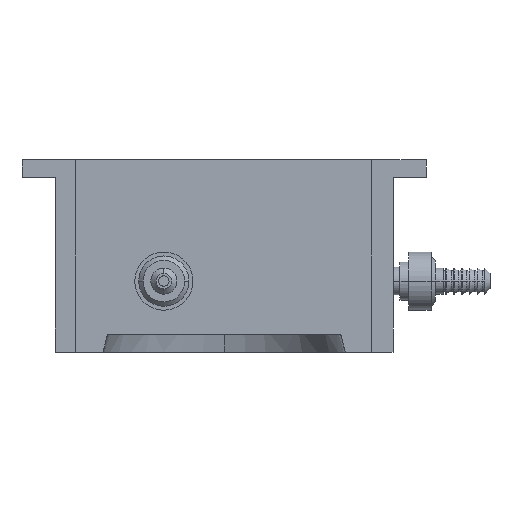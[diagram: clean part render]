
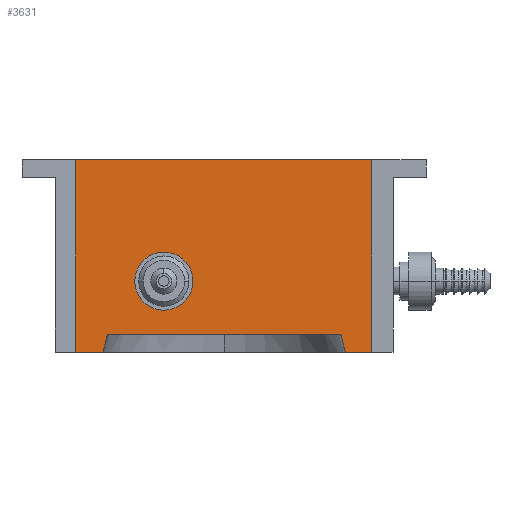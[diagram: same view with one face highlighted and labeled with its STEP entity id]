
A CAD part, left-side view. The second image highlights one B-rep face of the part: STEP entity #3631.
In plain terms, the highlighted planar face has unit normal (-1, 0, 0).
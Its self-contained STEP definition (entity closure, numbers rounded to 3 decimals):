
#15 = DIRECTION ( 'NONE',  ( 0., 0.259, 0.966 ) ) ;
#16 = CARTESIAN_POINT ( 'NONE',  ( -110., -40.341, 0.809 ) ) ;
#27 = DIRECTION ( 'NONE',  ( 0., -1., 0. ) ) ;
#85 = CARTESIAN_POINT ( 'NONE',  ( -110., 0., -101. ) ) ;
#89 = DIRECTION ( 'NONE',  ( 0., -1., 0. ) ) ;
#94 = PLANE ( 'NONE',  #1360 ) ;
#158 = CARTESIAN_POINT ( 'NONE',  ( -110., 0., -111. ) ) ;
#163 = CARTESIAN_POINT ( 'NONE',  ( -110., 0., -10. ) ) ;
#170 = DIRECTION ( 'NONE',  ( 0., -1., 0. ) ) ;
#173 = DIRECTION ( 'NONE',  ( -1., 0., 0. ) ) ;
#290 = VERTEX_POINT ( 'NONE', #3264 ) ;
#336 = VERTEX_POINT ( 'NONE', #3267 ) ;
#349 = VERTEX_POINT ( 'NONE', #3118 ) ;
#351 = VERTEX_POINT ( 'NONE', #2989 ) ;
#353 = VERTEX_POINT ( 'NONE', #2990 ) ;
#393 = VERTEX_POINT ( 'NONE', #3127 ) ;
#394 = VERTEX_POINT ( 'NONE', #3129 ) ;
#395 = VERTEX_POINT ( 'NONE', #3126 ) ;
#429 = LINE ( 'NONE', #3076, #493 ) ;
#448 = VECTOR ( 'NONE', #3440, 1000. ) ;
#453 = CIRCLE ( 'NONE', #3837, 8. ) ;
#493 = VECTOR ( 'NONE', #3176, 1000. ) ;
#497 = LINE ( 'NONE', #3399, #448 ) ;
#579 = LINE ( 'NONE', #16, #623 ) ;
#617 = VECTOR ( 'NONE', #89, 1000. ) ;
#619 = LINE ( 'NONE', #85, #958 ) ;
#622 = LINE ( 'NONE', #4010, #762 ) ;
#623 = VECTOR ( 'NONE', #15, 1000. ) ;
#750 = FACE_BOUND ( 'NONE', #2166, .T. ) ;
#762 = VECTOR ( 'NONE', #4004, 1000. ) ;
#783 = FACE_OUTER_BOUND ( 'NONE', #2163, .T. ) ;
#958 = VECTOR ( 'NONE', #27, 1000. ) ;
#1033 = VERTEX_POINT ( 'NONE', #3332 ) ;
#1198 = VERTEX_POINT ( 'NONE', #3340 ) ;
#1200 = LINE ( 'NONE', #158, #617 ) ;
#1206 = LINE ( 'NONE', #1388, #1209 ) ;
#1209 = VECTOR ( 'NONE', #1393, 1000. ) ;
#1311 = CIRCLE ( 'NONE', #1844, 8. ) ;
#1360 = AXIS2_PLACEMENT_3D ( 'NONE', #163, #173, #170 ) ;
#1388 = CARTESIAN_POINT ( 'NONE',  ( -110., 85.5, -10. ) ) ;
#1393 = DIRECTION ( 'NONE',  ( 0., 0., 1. ) ) ;
#1645 = DIRECTION ( 'NONE',  ( 0., 1., 0. ) ) ;
#1646 = DIRECTION ( 'NONE',  ( 1., 0., 0. ) ) ;
#1647 = CARTESIAN_POINT ( 'NONE',  ( -110., 34.5, -70. ) ) ;
#1844 = AXIS2_PLACEMENT_3D ( 'NONE', #1647, #1646, #1645 ) ;
#1931 = ORIENTED_EDGE ( 'NONE', *, *, #3935, .F. ) ;
#1947 = ORIENTED_EDGE ( 'NONE', *, *, #2709, .F. ) ;
#2163 = EDGE_LOOP ( 'NONE', ( #2377, #2336, #2346, #2357, #1931, #1947, #2342, #2329 ) ) ;
#2166 = EDGE_LOOP ( 'NONE', ( #2356, #2330 ) ) ;
#2329 = ORIENTED_EDGE ( 'NONE', *, *, #2722, .T. ) ;
#2330 = ORIENTED_EDGE ( 'NONE', *, *, #2728, .T. ) ;
#2336 = ORIENTED_EDGE ( 'NONE', *, *, #3862, .T. ) ;
#2342 = ORIENTED_EDGE ( 'NONE', *, *, #2893, .F. ) ;
#2346 = ORIENTED_EDGE ( 'NONE', *, *, #3861, .F. ) ;
#2356 = ORIENTED_EDGE ( 'NONE', *, *, #2854, .T. ) ;
#2357 = ORIENTED_EDGE ( 'NONE', *, *, #3858, .T. ) ;
#2377 = ORIENTED_EDGE ( 'NONE', *, *, #3958, .F. ) ;
#2709 = EDGE_CURVE ( 'NONE', #353, #349, #429, .T. ) ;
#2722 = EDGE_CURVE ( 'NONE', #394, #336, #497, .T. ) ;
#2728 = EDGE_CURVE ( 'NONE', #1033, #290, #453, .T. ) ;
#2854 = EDGE_CURVE ( 'NONE', #290, #1033, #1311, .T. ) ;
#2893 = EDGE_CURVE ( 'NONE', #394, #353, #1206, .T. ) ;
#2934 = LINE ( 'NONE', #4402, #2939 ) ;
#2939 = VECTOR ( 'NONE', #4427, 1000. ) ;
#2989 = CARTESIAN_POINT ( 'NONE',  ( -110., -70.3, -111. ) ) ;
#2990 = CARTESIAN_POINT ( 'NONE',  ( -110., 85.5, 0. ) ) ;
#3076 = CARTESIAN_POINT ( 'NONE',  ( -110., 0., 0. ) ) ;
#3118 = CARTESIAN_POINT ( 'NONE',  ( -110., -85.5, 0. ) ) ;
#3126 = CARTESIAN_POINT ( 'NONE',  ( -110., -67.621, -101. ) ) ;
#3127 = CARTESIAN_POINT ( 'NONE',  ( -110., -85.5, -111. ) ) ;
#3129 = CARTESIAN_POINT ( 'NONE',  ( -110., 85.5, -111. ) ) ;
#3176 = DIRECTION ( 'NONE',  ( 0., -1., 0. ) ) ;
#3264 = CARTESIAN_POINT ( 'NONE',  ( -110., 42.5, -70. ) ) ;
#3267 = CARTESIAN_POINT ( 'NONE',  ( -110., 69.7, -111. ) ) ;
#3292 = DIRECTION ( 'NONE',  ( 0., 1., 0. ) ) ;
#3293 = DIRECTION ( 'NONE',  ( 1., 0., 0. ) ) ;
#3332 = CARTESIAN_POINT ( 'NONE',  ( -110., 26.5, -70. ) ) ;
#3340 = CARTESIAN_POINT ( 'NONE',  ( -110., 67.021, -101. ) ) ;
#3399 = CARTESIAN_POINT ( 'NONE',  ( -110., 0., -111. ) ) ;
#3440 = DIRECTION ( 'NONE',  ( 0., -1., 0. ) ) ;
#3444 = CARTESIAN_POINT ( 'NONE',  ( -110., 34.5, -70. ) ) ;
#3631 = ADVANCED_FACE ( 'NONE', ( #783, #750 ), #94, .T. ) ;
#3837 = AXIS2_PLACEMENT_3D ( 'NONE', #3444, #3293, #3292 ) ;
#3858 = EDGE_CURVE ( 'NONE', #351, #393, #1200, .T. ) ;
#3861 = EDGE_CURVE ( 'NONE', #351, #395, #579, .T. ) ;
#3862 = EDGE_CURVE ( 'NONE', #1198, #395, #619, .T. ) ;
#3935 = EDGE_CURVE ( 'NONE', #349, #393, #622, .T. ) ;
#3958 = EDGE_CURVE ( 'NONE', #1198, #336, #2934, .T. ) ;
#4004 = DIRECTION ( 'NONE',  ( 0., 0., -1. ) ) ;
#4010 = CARTESIAN_POINT ( 'NONE',  ( -110., -85.5, -10. ) ) ;
#4402 = CARTESIAN_POINT ( 'NONE',  ( -110., 39.781, 0.659 ) ) ;
#4427 = DIRECTION ( 'NONE',  ( 0., 0.259, -0.966 ) ) ;
